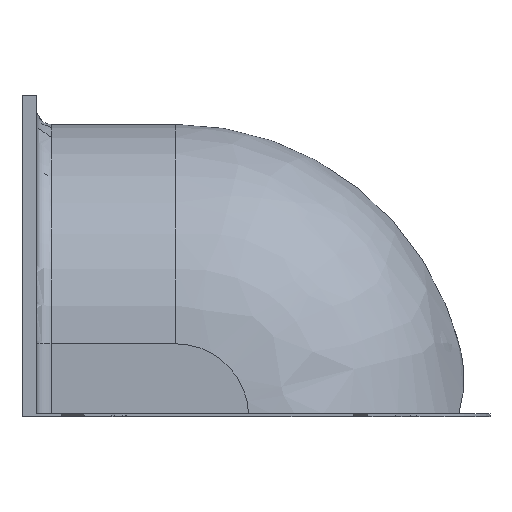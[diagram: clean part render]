
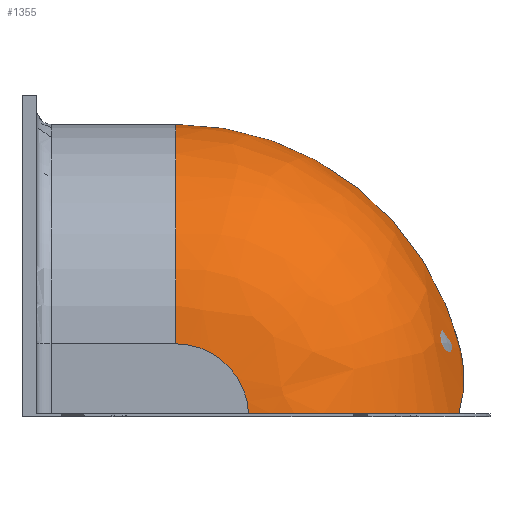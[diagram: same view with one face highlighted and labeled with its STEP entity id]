
A CAD part, left-side view. The second image highlights one B-rep face of the part: STEP entity #1355.
In plain terms, the highlighted free-form (B-spline) face has degree [2, 2] with [3, 3] control points.
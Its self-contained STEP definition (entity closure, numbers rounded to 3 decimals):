
#61=(
BOUNDED_SURFACE()
B_SPLINE_SURFACE(2,2,((#2529,#2530,#2531),(#2532,#2533,#2534),(#2535,#2536,
#2537)),.UNSPECIFIED.,.F.,.F.,.F.)
B_SPLINE_SURFACE_WITH_KNOTS((3,3),(3,3),(0.,1.571),
(-1.56,0.),.UNSPECIFIED.)
GEOMETRIC_REPRESENTATION_ITEM()
RATIONAL_B_SPLINE_SURFACE(((1.,0.711,1.),(0.707,
0.503,0.707),(1.,0.711,1.)))
REPRESENTATION_ITEM('')
SURFACE()
);
#66=CIRCLE('',#1400,400.);
#117=CIRCLE('',#1478,100.);
#118=CIRCLE('',#1479,300.);
#427=FACE_OUTER_BOUND('',#505,.T.);
#505=EDGE_LOOP('',(#1129,#1130,#1131,#1132,#1133));
#551=B_SPLINE_CURVE_WITH_KNOTS('',3,(#2063,#2064,#2065,#2066,#2067,#2068,
#2069,#2070,#2071,#2072,#2073,#2074),.UNSPECIFIED.,.F.,.F.,(4,2,2,2,2,4),
(-62.398,-60.444,-57.917,-55.391,
-52.865,-50.86),.UNSPECIFIED.);
#556=B_SPLINE_CURVE_WITH_KNOTS('',3,(#2231,#2232,#2233,#2234,#2235,#2236,
#2237,#2238,#2239,#2240,#2241,#2242,#2243,#2244,#2245,#2246,#2247,#2248,
#2249,#2250,#2251,#2252,#2253,#2254,#2255,#2256,#2257,#2258,#2259,#2260),
 .UNSPECIFIED.,.F.,.F.,(4,2,2,2,2,2,2,2,2,2,2,2,2,2,4),(62.142,
62.306,65.082,67.859,70.636,73.413,
76.189,78.966,81.743,84.52,87.297,
90.075,92.853,95.632,98.41),
 .UNSPECIFIED.);
#567=VERTEX_POINT('',#2023);
#568=VERTEX_POINT('',#2025);
#573=VERTEX_POINT('',#2062);
#601=VERTEX_POINT('',#2230);
#690=VERTEX_POINT('',#2526);
#700=EDGE_CURVE('',#568,#567,#66,.T.);
#707=EDGE_CURVE('',#573,#568,#551,.T.);
#739=EDGE_CURVE('',#573,#601,#556,.T.);
#856=EDGE_CURVE('',#690,#601,#117,.T.);
#858=EDGE_CURVE('',#567,#690,#118,.T.);
#1129=ORIENTED_EDGE('',*,*,#707,.T.);
#1130=ORIENTED_EDGE('',*,*,#700,.T.);
#1131=ORIENTED_EDGE('',*,*,#858,.T.);
#1132=ORIENTED_EDGE('',*,*,#856,.T.);
#1133=ORIENTED_EDGE('',*,*,#739,.F.);
#1355=ADVANCED_FACE('',(#427),#61,.F.);
#1400=AXIS2_PLACEMENT_3D('',#2026,#1528,#1529);
#1478=AXIS2_PLACEMENT_3D('',#2527,#1779,#1780);
#1479=AXIS2_PLACEMENT_3D('',#2538,#1782,#1783);
#1528=DIRECTION('center_axis',(-1.,0.,0.));
#1529=DIRECTION('ref_axis',(0.,-0.707,0.707));
#1779=DIRECTION('center_axis',(1.,0.,0.));
#1780=DIRECTION('ref_axis',(0.,-0.707,0.707));
#1782=DIRECTION('center_axis',(0.,-1.,0.));
#1783=DIRECTION('ref_axis',(0.,0.,1.));
#2023=CARTESIAN_POINT('',(-110.,-210.,400.));
#2025=CARTESIAN_POINT('',(-110.,-599.744,90.));
#2026=CARTESIAN_POINT('Origin',(-110.,-210.,0.));
#2062=CARTESIAN_POINT('',(-196.,-597.388,4.));
#2063=CARTESIAN_POINT('Ctrl Pts',(-196.,-597.388,4.));
#2064=CARTESIAN_POINT('Ctrl Pts',(-191.396,-598.719,8.604));
#2065=CARTESIAN_POINT('Ctrl Pts',(-186.618,-599.895,13.382));
#2066=CARTESIAN_POINT('Ctrl Pts',(-175.424,-602.132,24.576));
#2067=CARTESIAN_POINT('Ctrl Pts',(-168.938,-603.054,31.062));
#2068=CARTESIAN_POINT('Ctrl Pts',(-155.936,-604.132,44.064));
#2069=CARTESIAN_POINT('Ctrl Pts',(-149.418,-604.287,50.582));
#2070=CARTESIAN_POINT('Ctrl Pts',(-136.671,-603.873,63.329));
#2071=CARTESIAN_POINT('Ctrl Pts',(-130.442,-603.303,69.558));
#2072=CARTESIAN_POINT('Ctrl Pts',(-119.817,-601.783,80.183));
#2073=CARTESIAN_POINT('Ctrl Pts',(-114.949,-600.886,85.051));
#2074=CARTESIAN_POINT('Ctrl Pts',(-110.,-599.744,90.));
#2230=CARTESIAN_POINT('',(-410.,-309.92,4.));
#2231=CARTESIAN_POINT('Ctrl Pts',(-196.,-597.388,4.));
#2232=CARTESIAN_POINT('Ctrl Pts',(-196.561,-597.221,4.));
#2233=CARTESIAN_POINT('Ctrl Pts',(-197.12,-597.051,4.));
#2234=CARTESIAN_POINT('Ctrl Pts',(-207.135,-593.991,4.));
#2235=CARTESIAN_POINT('Ctrl Pts',(-216.248,-590.687,4.));
#2236=CARTESIAN_POINT('Ctrl Pts',(-233.351,-583.603,4.));
#2237=CARTESIAN_POINT('Ctrl Pts',(-242.131,-579.495,4.));
#2238=CARTESIAN_POINT('Ctrl Pts',(-259.592,-570.208,4.));
#2239=CARTESIAN_POINT('Ctrl Pts',(-268.272,-565.03,4.));
#2240=CARTESIAN_POINT('Ctrl Pts',(-285.056,-553.816,4.));
#2241=CARTESIAN_POINT('Ctrl Pts',(-293.162,-547.778,4.));
#2242=CARTESIAN_POINT('Ctrl Pts',(-308.423,-535.2,4.));
#2243=CARTESIAN_POINT('Ctrl Pts',(-315.579,-528.66,4.));
#2244=CARTESIAN_POINT('Ctrl Pts',(-328.669,-515.569,4.));
#2245=CARTESIAN_POINT('Ctrl Pts',(-335.209,-508.413,4.));
#2246=CARTESIAN_POINT('Ctrl Pts',(-347.788,-493.151,4.));
#2247=CARTESIAN_POINT('Ctrl Pts',(-353.827,-485.044,4.));
#2248=CARTESIAN_POINT('Ctrl Pts',(-365.041,-468.259,4.));
#2249=CARTESIAN_POINT('Ctrl Pts',(-370.22,-459.578,4.));
#2250=CARTESIAN_POINT('Ctrl Pts',(-379.507,-442.116,4.));
#2251=CARTESIAN_POINT('Ctrl Pts',(-383.616,-433.334,4.));
#2252=CARTESIAN_POINT('Ctrl Pts',(-390.702,-416.227,4.));
#2253=CARTESIAN_POINT('Ctrl Pts',(-394.007,-407.108,4.));
#2254=CARTESIAN_POINT('Ctrl Pts',(-399.789,-388.185,4.));
#2255=CARTESIAN_POINT('Ctrl Pts',(-402.266,-378.38,4.));
#2256=CARTESIAN_POINT('Ctrl Pts',(-406.205,-358.573,4.));
#2257=CARTESIAN_POINT('Ctrl Pts',(-407.668,-348.566,4.));
#2258=CARTESIAN_POINT('Ctrl Pts',(-409.565,-328.87,4.));
#2259=CARTESIAN_POINT('Ctrl Pts',(-410.,-319.181,4.));
#2260=CARTESIAN_POINT('Ctrl Pts',(-410.,-309.92,4.));
#2526=CARTESIAN_POINT('',(-410.,-210.,100.));
#2527=CARTESIAN_POINT('Origin',(-410.,-210.,0.));
#2529=CARTESIAN_POINT('Ctrl Pts',(-110.,-609.979,4.13));
#2530=CARTESIAN_POINT('Ctrl Pts',(-110.,-605.891,400.));
#2531=CARTESIAN_POINT('Ctrl Pts',(-110.,-210.,400.));
#2532=CARTESIAN_POINT('Ctrl Pts',(-410.,-609.979,4.13));
#2533=CARTESIAN_POINT('Ctrl Pts',(-410.,-605.891,400.));
#2534=CARTESIAN_POINT('Ctrl Pts',(-410.,-210.,400.));
#2535=CARTESIAN_POINT('Ctrl Pts',(-410.,-309.995,1.033));
#2536=CARTESIAN_POINT('Ctrl Pts',(-410.,-308.973,100.));
#2537=CARTESIAN_POINT('Ctrl Pts',(-410.,-210.,100.));
#2538=CARTESIAN_POINT('Origin',(-110.,-210.,100.));
